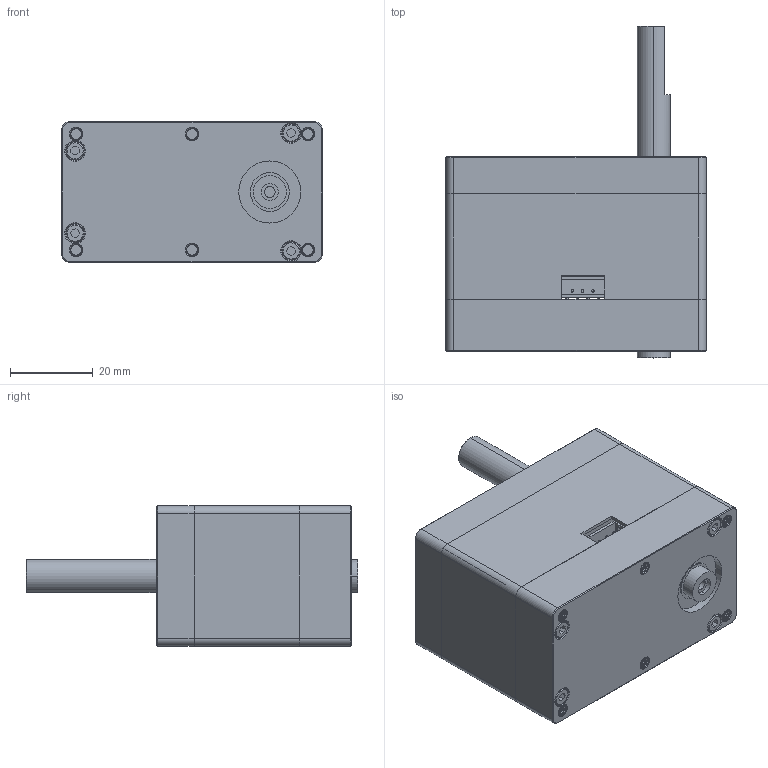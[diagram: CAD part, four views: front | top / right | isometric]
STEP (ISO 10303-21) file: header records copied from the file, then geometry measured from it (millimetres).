
FILE_DESCRIPTION (( 'STEP AP203' ), '1' );
FILE_NAME ('华馨京 RX18系列D轴舵机外观尺寸图-3D1.STEP', '2026-01-30T08:04:50', ( 'Windows 用户' ), ( '' ), 'SwSTEP 2.0', 'SolidWorks 2021', '' );
FILE_SCHEMA (( 'CONFIG_CONTROL_DESIGN' ));
Length unit declared in the file: millimetre
Products named in the file (7): 100kg嗆儂狟褲.step; M3囀鞠褒蹟邡; 华馨京 RX18系列D轴舵机外观尺寸图-3D1; 100kg嗆儂奻褲.step; U100D倰怀堤喘謫; 100kg嗆儂笢褲.step; 100kgPCBA翋啣
Assembly tree (14 placements, depth 2):
  华馨京 RX18系列D轴舵机外观尺寸图-3D1
    100kg嗆儂笢褲.step
    100kg嗆儂奻褲.step
    100kg嗆儂狟褲.step
    M3囀鞠褒蹟邡  x9
    100kgPCBA翋啣
    U100D倰怀堤喘謫
Bounding box: 63 x 80.2 x 34 mm (x, y, z)
Volume: 50770.7 mm3; surface area: 29670.4 mm2
Topology: 21 solids, 21 shells, 1116 faces, 2981 edges, 1939 vertices
Faces by surface type: cylinder 475, plane 351, bspline 148, cone 142
Entity records: 35212 total; most frequent: CARTESIAN_POINT 18673, ORIENTED_EDGE 3498, DIRECTION 2878, EDGE_CURVE 1749, VERTEX_POINT 1147, AXIS2_PLACEMENT_3D 1023, VECTOR 832, LINE 832
